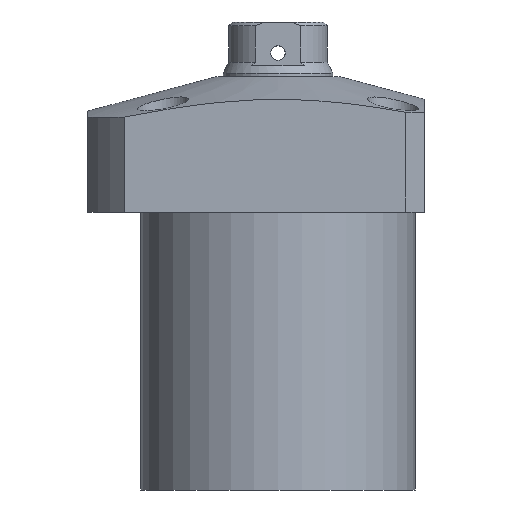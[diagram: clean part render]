
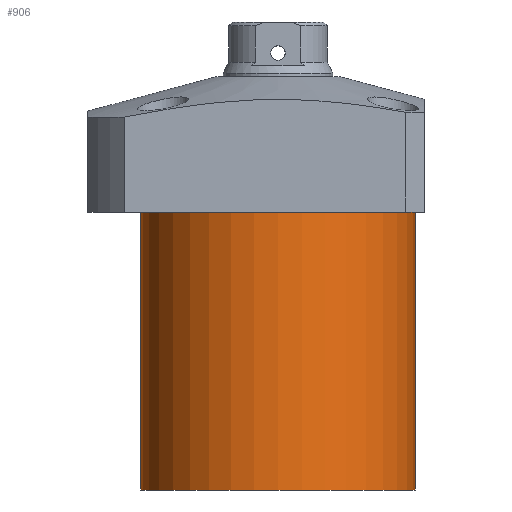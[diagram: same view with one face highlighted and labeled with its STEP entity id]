
A CAD part, front view. The second image highlights one B-rep face of the part: STEP entity #906.
In plain terms, the highlighted cylindrical face has radius 37.5 mm (diameter 75 mm), a partial arc.
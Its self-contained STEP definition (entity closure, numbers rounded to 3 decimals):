
#1 = DIRECTION ( 'NONE',  ( 1., 0., 0. ) ) ;
#148 = CARTESIAN_POINT ( 'NONE',  ( 0., 0., -94.5 ) ) ;
#162 = EDGE_CURVE ( 'NONE', #915, #2257, #2375, .T. ) ;
#205 = VERTEX_POINT ( 'NONE', #1382 ) ;
#239 = CARTESIAN_POINT ( 'NONE',  ( 0., 0., -94.5 ) ) ;
#359 = CYLINDRICAL_SURFACE ( 'NONE', #996, 37.5 ) ;
#457 = CARTESIAN_POINT ( 'NONE',  ( 37.5, 0., -94.5 ) ) ;
#489 = DIRECTION ( 'NONE',  ( 0., 0., 1. ) ) ;
#576 = CIRCLE ( 'NONE', #2759, 37.5 ) ;
#661 = DIRECTION ( 'NONE',  ( 0., 0., 1. ) ) ;
#906 = ADVANCED_FACE ( 'NONE', ( #1986 ), #359, .T. ) ;
#915 = VERTEX_POINT ( 'NONE', #457 ) ;
#996 = AXIS2_PLACEMENT_3D ( 'NONE', #239, #661, #1822 ) ;
#1047 = ORIENTED_EDGE ( 'NONE', *, *, #1482, .F. ) ;
#1127 = VERTEX_POINT ( 'NONE', #2755 ) ;
#1274 = VECTOR ( 'NONE', #489, 1000. ) ;
#1372 = ORIENTED_EDGE ( 'NONE', *, *, #2393, .F. ) ;
#1382 = CARTESIAN_POINT ( 'NONE',  ( -37.5, 0., -18.5 ) ) ;
#1418 = CARTESIAN_POINT ( 'NONE',  ( -37.5, 0., -94.5 ) ) ;
#1482 = EDGE_CURVE ( 'NONE', #1127, #205, #2504, .T. ) ;
#1587 = CIRCLE ( 'NONE', #2474, 37.5 ) ;
#1665 = CARTESIAN_POINT ( 'NONE',  ( 0., 0., -18.5 ) ) ;
#1784 = CARTESIAN_POINT ( 'NONE',  ( 37.5, 0., -94.5 ) ) ;
#1822 = DIRECTION ( 'NONE',  ( 1., 0., 0. ) ) ;
#1897 = DIRECTION ( 'NONE',  ( -1., 0., 0. ) ) ;
#1986 = FACE_OUTER_BOUND ( 'NONE', #1989, .T. ) ;
#1989 = EDGE_LOOP ( 'NONE', ( #1047, #1372, #2492, #2070 ) ) ;
#2012 = DIRECTION ( 'NONE',  ( 0., 0., 1. ) ) ;
#2070 = ORIENTED_EDGE ( 'NONE', *, *, #2533, .T. ) ;
#2257 = VERTEX_POINT ( 'NONE', #2494 ) ;
#2375 = LINE ( 'NONE', #1784, #2761 ) ;
#2393 = EDGE_CURVE ( 'NONE', #915, #1127, #1587, .T. ) ;
#2474 = AXIS2_PLACEMENT_3D ( 'NONE', #148, #2770, #1897 ) ;
#2492 = ORIENTED_EDGE ( 'NONE', *, *, #162, .T. ) ;
#2494 = CARTESIAN_POINT ( 'NONE',  ( 37.5, 0., -18.5 ) ) ;
#2504 = LINE ( 'NONE', #1418, #1274 ) ;
#2533 = EDGE_CURVE ( 'NONE', #2257, #205, #576, .T. ) ;
#2538 = DIRECTION ( 'NONE',  ( 0., 0., -1. ) ) ;
#2755 = CARTESIAN_POINT ( 'NONE',  ( -37.5, 0., -94.5 ) ) ;
#2759 = AXIS2_PLACEMENT_3D ( 'NONE', #1665, #2538, #1 ) ;
#2761 = VECTOR ( 'NONE', #2012, 1000. ) ;
#2770 = DIRECTION ( 'NONE',  ( 0., 0., -1. ) ) ;
